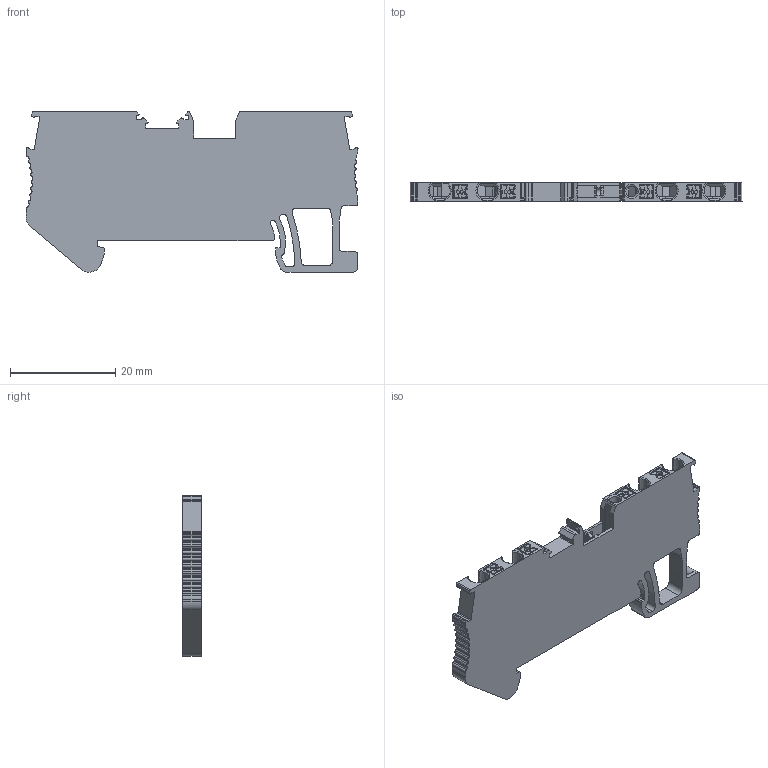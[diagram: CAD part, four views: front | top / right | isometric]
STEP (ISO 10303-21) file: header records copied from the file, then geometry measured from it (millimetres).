
FILE_DESCRIPTION((''),'2;1');
FILE_NAME('UPT-1_5-2-2_ASSY','2024-03-29T16:04:47',('Administrator'),(''),'CREO PARAMETRIC BY PTC INC, 2018050','CREO PARAMETRIC BY PTC INC, 2018050','');
FILE_SCHEMA(('CONFIG_CONTROL_DESIGN'));
Length unit declared in the file: millimetre
Products named in the file (1): UPT-1_5-2-2_ASSY
Bounding box: 63.2 x 3.5 x 30.5 mm (x, y, z)
Volume: 4590.5 mm3; surface area: 4888.5 mm2
Topology: 1 solids, 3 shells, 1253 faces, 3420 edges, 2114 vertices
Faces by surface type: plane 552, cylinder 478, torus 66, sphere 64, cone 62, extrusion 19, bspline 12
Entity records: 42242 total; most frequent: CARTESIAN_POINT 10772, ORIENTED_EDGE 6706, DIRECTION 6524, EDGE_CURVE 3353, AXIS2_PLACEMENT_3D 2229, VERTEX_POINT 2114, VECTOR 2066, LINE 2047
